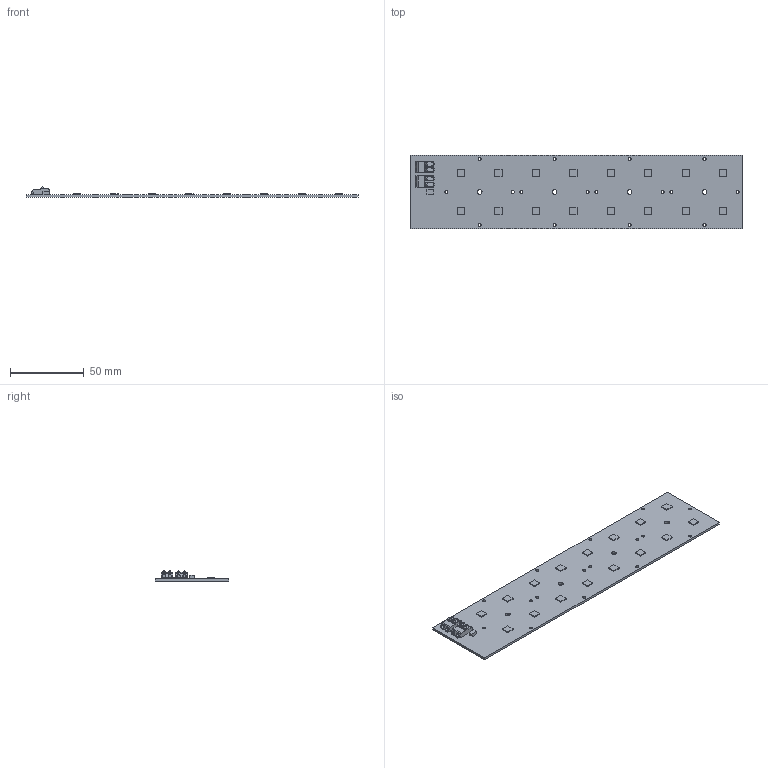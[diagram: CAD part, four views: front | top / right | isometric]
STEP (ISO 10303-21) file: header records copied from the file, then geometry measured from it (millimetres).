
FILE_DESCRIPTION(('Open CASCADE Model'),'2;1');
FILE_NAME('Open CASCADE Shape Model','2025-05-02T08:57:00',('Author'),( 'Open CASCADE'),'Open CASCADE STEP processor 6.8','Open CASCADE 6.8' ,'Unknown');
FILE_SCHEMA(('AUTOMOTIVE_DESIGN { 1 0 10303 214 1 1 1 1 }'));
Length unit declared in the file: millimetre
Products named in the file (1): PCB
Bounding box: 225 x 50 x 6.95 mm (x, y, z)
Volume: 18757.4 mm3; surface area: 25713.7 mm2
Topology: 20 solids, 24 shells, 498 faces, 1342 edges, 892 vertices
Faces by surface type: plane 366, cylinder 124, sphere 8
Full cylindrical faces by diameter (mm): 2.1 x16, 2.25 x4, 3.2 x4
Entity records: 15702 total; most frequent: CARTESIAN_POINT 2867, ORIENTED_EDGE 2644, DIRECTION 2572, EDGE_CURVE 1322, LINE 1010, VECTOR 1010, VERTEX_POINT 884, AXIS2_PLACEMENT_3D 781
